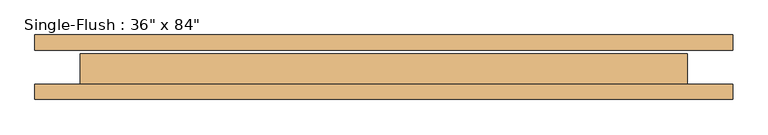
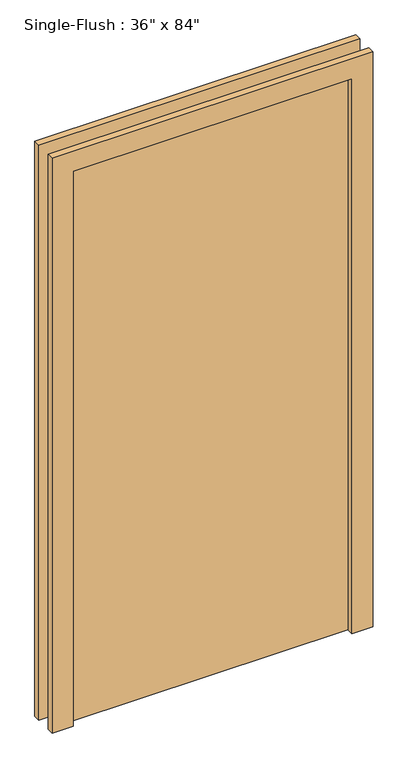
"""IFC4 building model written with IfcOpenShell, lengths in millimetres: door geometry."""

from ifc_helpers import new_model, si_unit, frame, origin, origin_with_axes, place, context, project, spatial, polyline, outline, extrude, source, transform, mapped, element, save


def door_4a3ce9bd(model_context):
    return source(origin(), model_context, "Body", "SweptSolid", [
        extrude(outline(polyline([(2209.8, -584.2), (0.0, -584.2), (0.0, -508.0), (2133.6, -508.0), (2133.6, 508.0), (0.0, 508.0), (0.0, 584.2), (2209.8, 584.2), (2209.8, -584.2)])), frame((0.0, -53.975, 0.0), z_axis=(0.0, 1.0, 0.0), x_axis=(0.0, 0.0, 1.0)), (0.0, 0.0, 1.0), 25.4),
        extrude(outline(polyline([(2209.8, 584.2), (2209.8, -584.2), (0.0, -584.2), (0.0, -508.0), (2133.6, -508.0), (2133.6, 508.0), (0.0, 508.0), (0.0, 584.2), (2209.8, 584.2)])), frame((0.0, 28.575, 0.0), z_axis=(0.0, 1.0, 0.0), x_axis=(0.0, 0.0, 1.0)), (0.0, 0.0, 1.0), 25.4),
        extrude(outline(polyline([(508.0, 22.225), (508.0, -28.575), (-508.0, -28.575), (-508.0, 22.225), (508.0, 22.225)])), origin_with_axes(), (0.0, 0.0, 1.0), 2133.6),
    ])


if __name__ == "__main__":
    model = new_model("IFC4")
    model_context = context("Model", 3, world=origin())
    ifc_project = project(units=[si_unit("LENGTHUNIT", "METRE", prefix="MILLI")], contexts=[model_context])
    site = spatial("IfcSite", under=ifc_project)
    building = spatial("IfcBuilding", under=site)
    placement = place(None, origin())
    door_shape = door_4a3ce9bd(model_context)
    element("IfcDoor", 1, ObjectType="Single-Flush : 36\" x 84\"", at=placement, inside=building, context=model_context, shape_type="MappedRepresentation", body=[
        mapped(door_shape, transform((0.0, 0.0, 0.0), x_axis=(1.0, 0.0, 0.0), y_axis=(0.0, 1.0, 0.0), z_axis=(0.0, 0.0, 1.0))),
    ])
    save(model, "model.ifc")
